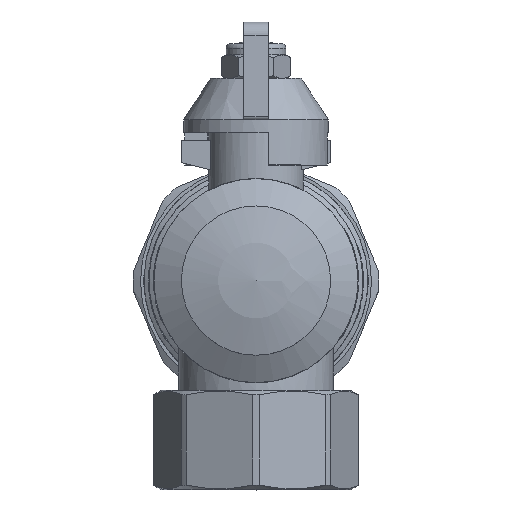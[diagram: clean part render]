
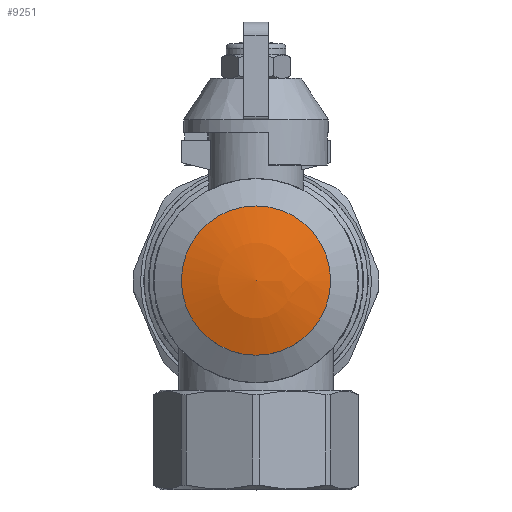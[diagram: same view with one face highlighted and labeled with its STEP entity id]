
A CAD part, top view. The second image highlights one B-rep face of the part: STEP entity #9251.
In plain terms, the highlighted spherical face has radius 46.25 mm.
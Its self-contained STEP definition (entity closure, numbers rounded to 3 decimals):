
#15=SPHERICAL_SURFACE('',#9924,46.25);
#720=CIRCLE('',#9925,15.);
#1323=FACE_OUTER_BOUND('',#1909,.T.);
#1909=EDGE_LOOP('',(#8463));
#4451=VERTEX_POINT('',#26280);
#5814=EDGE_CURVE('',#4451,#4451,#720,.T.);
#8463=ORIENTED_EDGE('',*,*,#5814,.T.);
#9251=ADVANCED_FACE('',(#1323),#15,.T.);
#9924=AXIS2_PLACEMENT_3D('',#26279,#11860,#11861);
#9925=AXIS2_PLACEMENT_3D('',#26281,#11862,#11863);
#11860=DIRECTION('center_axis',(0.,0.,1.));
#11861=DIRECTION('ref_axis',(1.,0.,0.));
#11862=DIRECTION('center_axis',(0.,0.,1.));
#11863=DIRECTION('ref_axis',(1.,0.,0.));
#26279=CARTESIAN_POINT('Origin',(0.,0.,-18.575));
#26280=CARTESIAN_POINT('',(0.,-15.,25.175));
#26281=CARTESIAN_POINT('Origin',(0.,0.,25.175));
